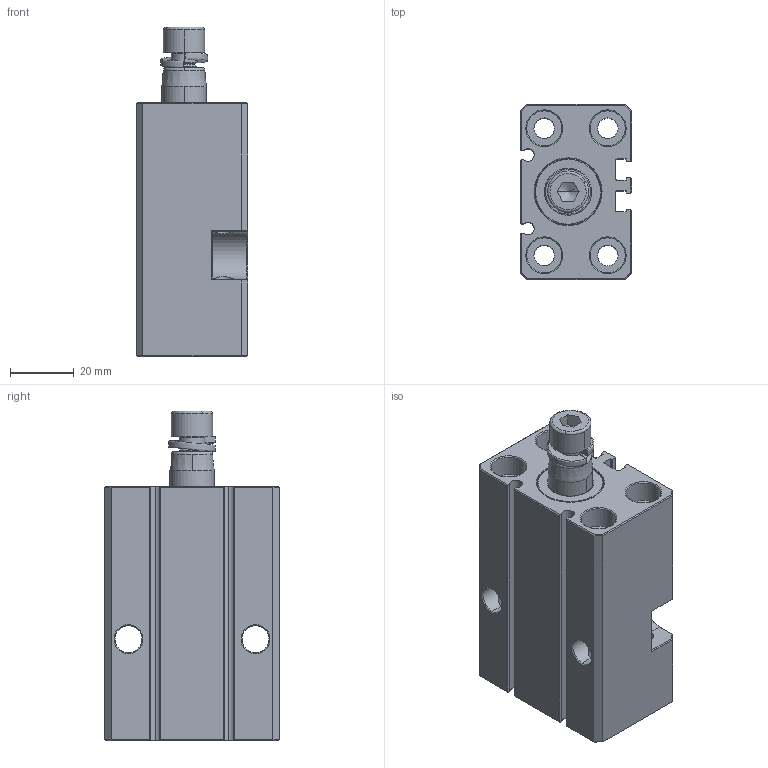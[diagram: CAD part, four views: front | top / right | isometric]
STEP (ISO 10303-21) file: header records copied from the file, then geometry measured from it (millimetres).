
FILE_DESCRIPTION (( 'STEP AP203' ), '1' );
FILE_NAME ('523-25R.STEP', '2022-12-13T12:56:51', ( '' ), ( '' ), 'SwSTEP 2.0', 'SolidWorks 2023', '' );
FILE_SCHEMA (( 'CONFIG_CONTROL_DESIGN' ));
Length unit declared in the file: millimetre
Products named in the file (1): 523-25R
Bounding box: 35 x 55 x 103.8 mm (x, y, z)
Volume: 111285.3 mm3; surface area: 38488.9 mm2
Topology: 4 solids, 4 shells, 374 faces, 956 edges, 599 vertices
Faces by surface type: plane 171, cone 92, cylinder 82, bspline 29
Entity records: 19453 total; most frequent: CARTESIAN_POINT 10313, ORIENTED_EDGE 1904, DIRECTION 1871, EDGE_CURVE 952, AXIS2_PLACEMENT_3D 640, VERTEX_POINT 599, VECTOR 591, LINE 591
